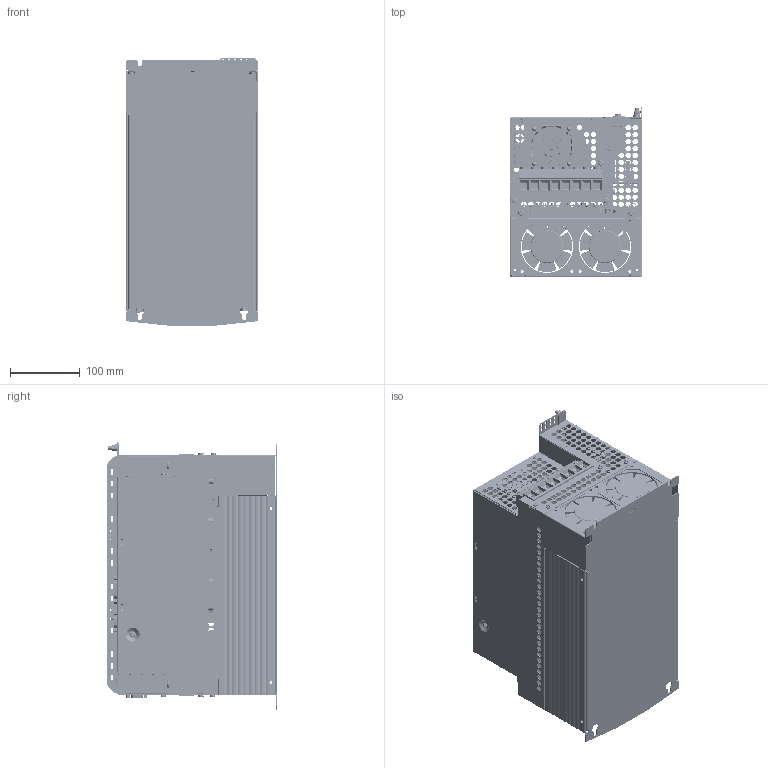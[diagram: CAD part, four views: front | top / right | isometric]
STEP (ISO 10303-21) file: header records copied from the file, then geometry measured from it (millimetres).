
FILE_DESCRIPTION( ( 'Unknown' ), '1' );
FILE_NAME( 'Y:/HW-Entwicklung/Servoverstärker/S750_S790/Projektordner S750_S790/05 Mechanik/3D_Modell/Dummy/A.3.054.4_44_1_D.stp', 'Unknown', ( 'Unknown' ), ( 'Unknown' ), 'PSStep 15.0.49', 'Unknown', ' ' );
FILE_SCHEMA( ( 'AUTOMOTIVE_DESIGN { 1 0 10303 214 1 1 1 1 }' ) );
Length unit declared in the file: millimetre
Products named in the file (132): Baugruppe Komplett_130; Einpreßmutter-M5_Standard; Bügel_Standard; Baugruppe Komplett_129; Brückengleichrichter_Standard; Flachstecker_Standard; Trans. Modul IGBT_Standard; Anschlußblech_Standard; LTP Moduladapter_Standard; Kühlschiene; Kühlschiene_104mm; A.3.054.4_49_2; ISO7380M3x6; Clip_MAX01_H; Clip_MAX01_H-oa0; Clip_MAX01_H-oa1; BPU_Pils; Baugruppe Komplett_128; Baugruppe Komplett_0; Snubber_Standard; Snubber_Standard_1; MKDSP25-8-15_Standard; 183-01466 Bezeichnungsstreifen_Standard; LEM-Wandler_Standard; LTP Verbindungsprint_Standard; 183-01465 Bezeichnungsstreifen_Standard; MKDSP25-4-15_Standard; DCU_rev2_D; Mainboard_SteckOutline; MC1502_3.81; TO220AC; ODU_2TH_2.54_1; 2TMMH_D; FPS009_2700; 8TMMH_D; LJP_closed; LJP; DB9F; DB9M; S75090_LUST_5.6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
Assembly tree (253 placements, depth 6):
  Assem1
    CP_MSTB  x3
    ISO7985A M4x10 Spring ring  x3
    AS_07_25 
    Federring DIN127 M4  x2
    DIN_912_M4x12  x2
    PCB guide 30mm  x4
    Steuerkarte_rev_2_D
      BPU_Pils
        BPU_Pils
        BPU_Pils
        BPU_Pils
        BPU_Pils
        BPU_Pils
        BPU_Pils
        BPU_Pils
        BPU_Pils
        BPU_Pils
      Kühlschiene
        Kühlschiene_104mm
        A.3.054.4_49_2
        ISO7380M3x6  x2
        Clip_MAX01_H
        Clip_MAX01_H-oa0
        Clip_MAX01_H-oa1
      Display
        DisplayOutline
        SR0603R  x16
        SR0603C  x2
        8TMMH_D_C_RA
        3ETL9  x2
        7SEG  x3
        SOT23  x3
      DCU_rev2_D
        Mainboard_SteckOutline
        MC1502_3.81
        TO220AC
        ODU_2TH_2.54_1  x5
        ODU_2TH_2.54_1  x5
        ODU_2TH_2.54_1  x5
        2TMMH_D  x4
        FPS009_2700
        8TMMH_D
        LJP_closed
        LJP
        LJP
        DB9F
        DB9M
        S75090_LUST_5.6  x2
        32TMMH_T
        MC1508_3.5_9_16
        RJL12_001YC1
        MC1502_3.81_F
        DB15FH
        MC1508_3.5  x2
        ODU_24TH_2.54_2
        ODU_24TH_2.54_2
        ODU_24TH_2.54_2
        ODU_24TH_2.54_2
        ODU_24TH_2.54_2
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Bounding box: 190 x 243.12 x 384.72 mm (x, y, z)
Volume: 2658342.9 mm3; surface area: 1727511.4 mm2
Topology: 247 solids, 1861 shells, 27422 faces, 74534 edges, 50795 vertices
Faces by surface type: plane 20242, cylinder 6212, cone 453, extrusion 207, torus 187, sphere 79, bspline 42
Full cylindrical faces by diameter (mm): 0.228 x3, 0.457 x3, 0.5 x14, 0.661 x4, 0.7 x22, 0.8 x105, 0.9 x8, 1 x108, 1.19 x8, 1.2 x18, 1.25 x2, 1.3 x52, 1.4 x3, 1.5 x19, 1.6 x49, 1.7 x1, 2 x4, 2.1 x8, 2.106 x12, 2.3 x3, 2.454 x45, 2.459 x5, 2.5 x24, 2.6 x2, 2.7 x3, 2.8 x22, 2.98 x1, 3 x68, 3.1 x2, 3.2 x3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
Entity records: 928097 total; most frequent: CARTESIAN_POINT 152497, ORIENTED_EDGE 117154, DIRECTION 117026, EDGE_CURVE 63301, VECTOR 50682, LINE 50475, VERTEX_POINT 44486, AXIS2_PLACEMENT_3D 33172
